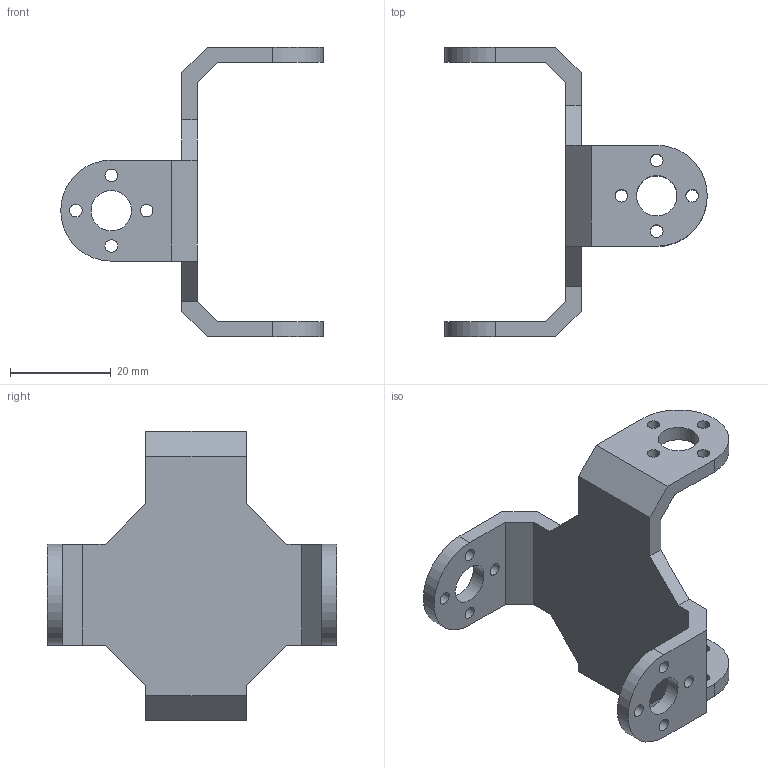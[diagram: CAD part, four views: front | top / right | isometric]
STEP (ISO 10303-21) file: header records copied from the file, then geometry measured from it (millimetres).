
FILE_DESCRIPTION(/* description */ (''),/* implementation_level */ '2;1');
FILE_NAME(/* name */ 'E:/云同步/我的坚果云/项目/SERVO DRIVER WITH ESP32/模型/A2 v3.step',/* time_stamp */ '2022-01-21T19:21:39+08:00',/* author */ (''),/* organization */ (''),/* preprocessor_version */ 'ST-DEVELOPER v18.1',/* originating_system */ 'Autodesk Translation Framework v10.10.0.1391',/* authorisation */ '');
FILE_SCHEMA (('AUTOMOTIVE_DESIGN { 1 0 10303 214 3 1 1 }'));
Length unit declared in the file: millimetre
Products named in the file (1): A2
Bounding box: 52 x 57.4 x 57.4 mm (x, y, z)
Volume: 10238.2 mm3; surface area: 8403.8 mm2
Topology: 1 solids, 1 shells, 57 faces, 161 edges, 106 vertices
Faces by surface type: plane 33, cylinder 24
Full cylindrical faces by diameter (mm): 2.5 x16, 8 x4
Entity records: 1953 total; most frequent: DIRECTION 325, CARTESIAN_POINT 325, ORIENTED_EDGE 322, EDGE_CURVE 161, LINE 113, VECTOR 113, VERTEX_POINT 106, AXIS2_PLACEMENT_3D 106
